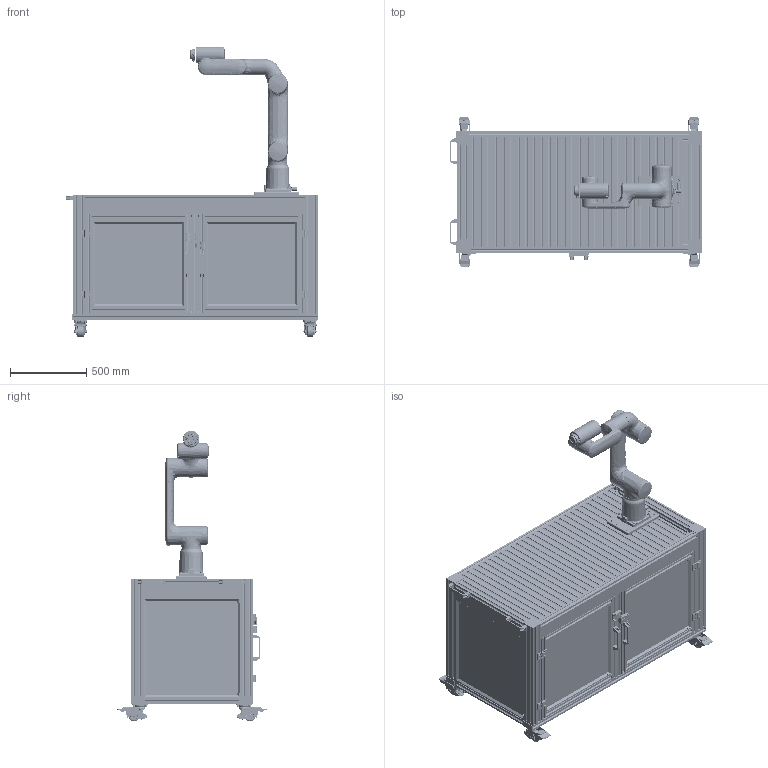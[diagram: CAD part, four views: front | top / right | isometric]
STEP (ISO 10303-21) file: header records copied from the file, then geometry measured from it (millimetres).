
FILE_DESCRIPTION(('STEP AP214'),'1');
FILE_NAME('1235845.stp','2024-11-14T13:26:24',(' '),(' '),'Spatial InterOp 3D',' ',' ');
FILE_SCHEMA(('AUTOMOTIVE_DESIGN { 1 0 10303 214 1 1 1 1 }'));
Length unit declared in the file: millimetre
Products named in the file (743): CRB 15000 (GoFa); CRB15000_5kg-950_OmniCore_rev00_LINK2_CAD-1-solid1; CRB15000_5kg-950_OmniCore_rev00_LINK3_CAD-1-solid1; NONE; CRB15000_5kg-950_OmniCore_rev00_LINK4_CAD-1-solid1; CRB15000_5kg-950_OmniCore_rev00_LINK1_CAD-1-solid1; CRB15000_5kg-950_OmniCore_rev00_LINK6_CAD-1-solid1; CRB15000_5kg-950_OmniCore_rev00_LINK0_CAD-1-solid1; ABB Bauteile (Roboter, Steuerung); 1235845; Grundgestell Wagen; PIL4040SNN640; GUS4651; GUS4650; BLS SKS M6; SKS M6X20 10.9; TIN4506; PIL8080SNN779; PIL4012SNN640; PIL4012SNN1440; PIL4080SNN1600; PIM4080SNN640; PIL4040SNN1440; FAS4041; CAP8081; PIL4080SNN640; PIL4040SNN659; PAN____G5N____ + CAL4515SNN____ + CAN4501; CAN4501; CAL4515SNN____; PAN____G5N____; GUS4501; FAS4081; CAP4081  ; SPAXFreeParts; Volumenkörper1; Volumenkörper2; Mink Bürste; DOR4501; PIL2520SNN720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
Assembly tree (781 placements, depth 6):
  1235845
    ABB Bauteile (Roboter, Steuerung)
      CRB 15000 (GoFa)
        CRB15000_5kg-950_OmniCore_rev00_LINK2_CAD-1-solid1
        CRB15000_5kg-950_OmniCore_rev00_LINK3_CAD-1-solid1
        NONE
        CRB15000_5kg-950_OmniCore_rev00_LINK4_CAD-1-solid1
        CRB15000_5kg-950_OmniCore_rev00_LINK1_CAD-1-solid1
        CRB15000_5kg-950_OmniCore_rev00_LINK6_CAD-1-solid1
        CRB15000_5kg-950_OmniCore_rev00_LINK0_CAD-1-solid1
    Roboter Wagen (ABB)
      Grundgestell Wagen
        PIL4040SNN640
        GUS4651
          GUS4650
          BLS SKS M6
          SKS M6X20 10.9
          TIN4506
        GUS4651
          GUS4650
          BLS SKS M6
          SKS M6X20 10.9
          TIN4506
        PIL8080SNN779
        PIL8080SNN779
        PIL8080SNN779
        PIL8080SNN779
        PIL4012SNN640
        PIL4012SNN640
        PIL4012SNN1440
        PIL4040SNN640
        PIL4040SNN640
        PIL4080SNN1600
        PIL4080SNN1600
        PIM4080SNN640
        PIL4040SNN1440
        PIL4040SNN1440
        FAS4041
        FAS4041
        FAS4041
        FAS4041
        FAS4041
        FAS4041
        FAS4041
        FAS4041
        FAS4041
        FAS4041
        FAS4041
        FAS4041
        FAS4041
        FAS4041
        FAS4041
        CAP8081
        CAP8081
        CAP8081
        CAP8081
        GUS4651
          GUS4650
          BLS SKS M6
          SKS M6X20 10.9
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Bounding box: 1651 x 975.47 x 1902.36 mm (x, y, z)
Volume: 85191249.3 mm3; surface area: 25249341.3 mm2
Topology: 750 solids, 754 shells, 16600 faces, 45866 edges, 29899 vertices
Faces by surface type: plane 9589, cylinder 2311, extrusion 1460, sphere 1168, bspline 1123, cone 635, torus 314
Full cylindrical faces by diameter (mm): 2.3 x8, 5 x14, 5.3 x72, 5.5 x2, 5.6 x16, 6 x64, 6.2 x24, 6.3 x36, 6.5 x12, 7 x40, 7.7 x24, 8 x99, 8.1 x16, 8.2 x8, 8.4 x12, 8.5 x46, 8.6 x16, 9 x4, 9.293 x4, 9.5 x2, 10 x48, 10.157 x4, 10.4 x4, 10.5 x12, 11.3 x4, 12 x24, 12.3 x8, 12.4 x8, 13 x20, 13.06 x4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
Entity records: 880614 total; most frequent: CARTESIAN_POINT 313086, ORIENTED_EDGE 82780, DIRECTION 71834, EDGE_CURVE 41390, VERTEX_POINT 29007, VECTOR 27278, LINE 25818, STYLED_ITEM 22824
